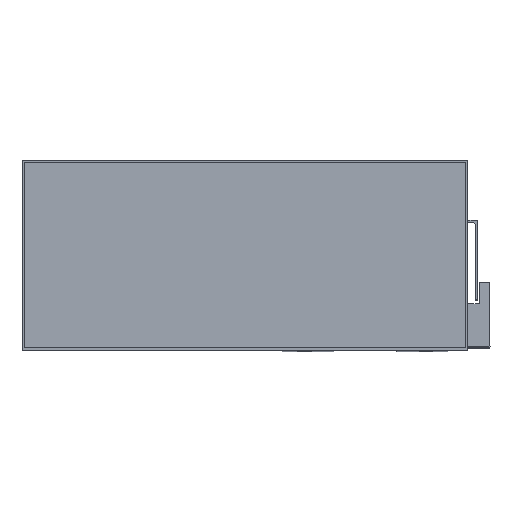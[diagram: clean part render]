
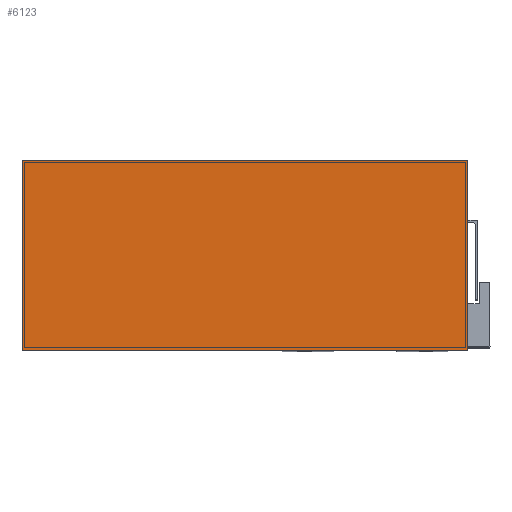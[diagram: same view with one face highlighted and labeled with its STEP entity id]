
A CAD part, top view. The second image highlights one B-rep face of the part: STEP entity #6123.
In plain terms, the highlighted planar face has unit normal (0, 0, 1).
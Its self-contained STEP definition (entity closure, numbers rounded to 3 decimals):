
#1135 = CARTESIAN_POINT ( 'NONE',  ( -1., 182., 44. ) ) ;
#1203 = VECTOR ( 'NONE', #16320, 1000. ) ;
#1548 = DIRECTION ( 'NONE',  ( 0., 1., 0. ) ) ;
#3604 = EDGE_CURVE ( 'NONE', #20883, #17020, #3713, .T. ) ;
#3713 = LINE ( 'NONE', #1135, #1203 ) ;
#4591 = CARTESIAN_POINT ( 'NONE',  ( -1., -1., 44. ) ) ;
#5204 = AXIS2_PLACEMENT_3D ( 'NONE', #16361, #8954, #22081 ) ;
#5563 = EDGE_CURVE ( 'NONE', #17020, #16080, #18078, .T. ) ;
#5694 = CARTESIAN_POINT ( 'NONE',  ( 77., 182., 44. ) ) ;
#6123 = ADVANCED_FACE ( 'NONE', ( #15562 ), #20179, .T. ) ;
#6463 = DIRECTION ( 'NONE',  ( 1., 0., 0. ) ) ;
#7483 = EDGE_CURVE ( 'NONE', #16080, #18853, #7929, .T. ) ;
#7906 = VECTOR ( 'NONE', #6463, 1000. ) ;
#7929 = LINE ( 'NONE', #4591, #7906 ) ;
#8954 = DIRECTION ( 'NONE',  ( 0., 0., 1. ) ) ;
#9072 = DIRECTION ( 'NONE',  ( 0., -1., 0. ) ) ;
#9588 = EDGE_CURVE ( 'NONE', #18853, #20883, #24519, .T. ) ;
#10905 = CARTESIAN_POINT ( 'NONE',  ( -1., 182., 44. ) ) ;
#15126 = EDGE_LOOP ( 'NONE', ( #16754, #16231, #16558, #16351 ) ) ;
#15562 = FACE_OUTER_BOUND ( 'NONE', #15126, .T. ) ;
#15894 = CARTESIAN_POINT ( 'NONE',  ( -1., 182., 44. ) ) ;
#16080 = VERTEX_POINT ( 'NONE', #22233 ) ;
#16231 = ORIENTED_EDGE ( 'NONE', *, *, #7483, .T. ) ;
#16320 = DIRECTION ( 'NONE',  ( -1., 0., 0. ) ) ;
#16351 = ORIENTED_EDGE ( 'NONE', *, *, #3604, .T. ) ;
#16361 = CARTESIAN_POINT ( 'NONE',  ( 0., 0., 44. ) ) ;
#16558 = ORIENTED_EDGE ( 'NONE', *, *, #9588, .T. ) ;
#16716 = CARTESIAN_POINT ( 'NONE',  ( 77., 182., 44. ) ) ;
#16754 = ORIENTED_EDGE ( 'NONE', *, *, #5563, .T. ) ;
#17020 = VERTEX_POINT ( 'NONE', #15894 ) ;
#18051 = VECTOR ( 'NONE', #9072, 1000. ) ;
#18078 = LINE ( 'NONE', #10905, #18051 ) ;
#18853 = VERTEX_POINT ( 'NONE', #22332 ) ;
#20179 = PLANE ( 'NONE',  #5204 ) ;
#20883 = VERTEX_POINT ( 'NONE', #5694 ) ;
#22081 = DIRECTION ( 'NONE',  ( 1., 0., 0. ) ) ;
#22233 = CARTESIAN_POINT ( 'NONE',  ( -1., -1., 44. ) ) ;
#22332 = CARTESIAN_POINT ( 'NONE',  ( 77., -1., 44. ) ) ;
#24428 = VECTOR ( 'NONE', #1548, 1000. ) ;
#24519 = LINE ( 'NONE', #16716, #24428 ) ;
